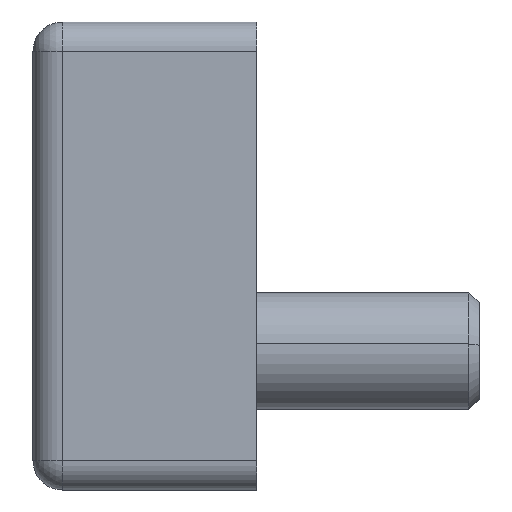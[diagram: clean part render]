
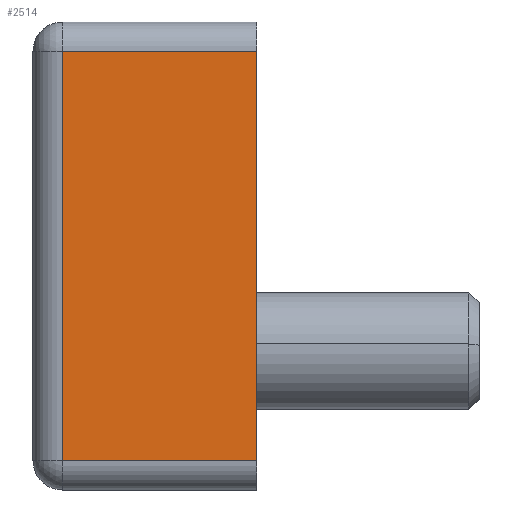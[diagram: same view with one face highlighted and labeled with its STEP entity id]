
A CAD part, left-side view. The second image highlights one B-rep face of the part: STEP entity #2514.
In plain terms, the highlighted planar face has unit normal (-1, 0, 0).
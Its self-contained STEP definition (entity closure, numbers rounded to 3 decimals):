
#36 = EDGE_CURVE ( 'NONE', #1048, #2714, #1081, .T. ) ;
#259 = ORIENTED_EDGE ( 'NONE', *, *, #594, .T. ) ;
#331 = CARTESIAN_POINT ( 'NONE',  ( -45.167, -6.724, 13.459 ) ) ;
#419 = DIRECTION ( 'NONE',  ( -1., 0., 0. ) ) ;
#477 = ORIENTED_EDGE ( 'NONE', *, *, #36, .T. ) ;
#530 = DIRECTION ( 'NONE',  ( 0., -1., 0. ) ) ;
#575 = LINE ( 'NONE', #2796, #761 ) ;
#594 = EDGE_CURVE ( 'NONE', #2714, #3328, #575, .T. ) ;
#761 = VECTOR ( 'NONE', #1398, 1000. ) ;
#810 = CARTESIAN_POINT ( 'NONE',  ( -45.167, 6.576, -14.541 ) ) ;
#1048 = VERTEX_POINT ( 'NONE', #1950 ) ;
#1063 = ORIENTED_EDGE ( 'NONE', *, *, #1333, .T. ) ;
#1081 = LINE ( 'NONE', #1865, #3097 ) ;
#1214 = VECTOR ( 'NONE', #530, 1000. ) ;
#1333 = EDGE_CURVE ( 'NONE', #3328, #2052, #1949, .T. ) ;
#1398 = DIRECTION ( 'NONE',  ( 0., 1., 0. ) ) ;
#1411 = EDGE_LOOP ( 'NONE', ( #1063, #1426, #477, #259 ) ) ;
#1426 = ORIENTED_EDGE ( 'NONE', *, *, #3216, .T. ) ;
#1672 = CARTESIAN_POINT ( 'NONE',  ( -45.167, 6.576, 13.459 ) ) ;
#1794 = FACE_OUTER_BOUND ( 'NONE', #1411, .T. ) ;
#1865 = CARTESIAN_POINT ( 'NONE',  ( -45.167, -6.724, -16.541 ) ) ;
#1949 = LINE ( 'NONE', #2534, #3163 ) ;
#1950 = CARTESIAN_POINT ( 'NONE',  ( -45.167, -6.724, -14.541 ) ) ;
#2052 = VERTEX_POINT ( 'NONE', #810 ) ;
#2126 = LINE ( 'NONE', #3266, #1214 ) ;
#2177 = DIRECTION ( 'NONE',  ( 0., 0., 1. ) ) ;
#2355 = PLANE ( 'NONE',  #2553 ) ;
#2514 = ADVANCED_FACE ( 'NONE', ( #1794 ), #2355, .T. ) ;
#2534 = CARTESIAN_POINT ( 'NONE',  ( -45.167, 6.576, -16.541 ) ) ;
#2553 = AXIS2_PLACEMENT_3D ( 'NONE', #3115, #419, #3178 ) ;
#2714 = VERTEX_POINT ( 'NONE', #331 ) ;
#2796 = CARTESIAN_POINT ( 'NONE',  ( -45.167, -6.724, 13.459 ) ) ;
#2799 = DIRECTION ( 'NONE',  ( 0., 0., -1. ) ) ;
#3097 = VECTOR ( 'NONE', #2177, 1000. ) ;
#3115 = CARTESIAN_POINT ( 'NONE',  ( -45.167, -6.724, -16.541 ) ) ;
#3163 = VECTOR ( 'NONE', #2799, 1000. ) ;
#3178 = DIRECTION ( 'NONE',  ( 0., 0., 1. ) ) ;
#3216 = EDGE_CURVE ( 'NONE', #2052, #1048, #2126, .T. ) ;
#3266 = CARTESIAN_POINT ( 'NONE',  ( -45.167, -6.724, -14.541 ) ) ;
#3328 = VERTEX_POINT ( 'NONE', #1672 ) ;
